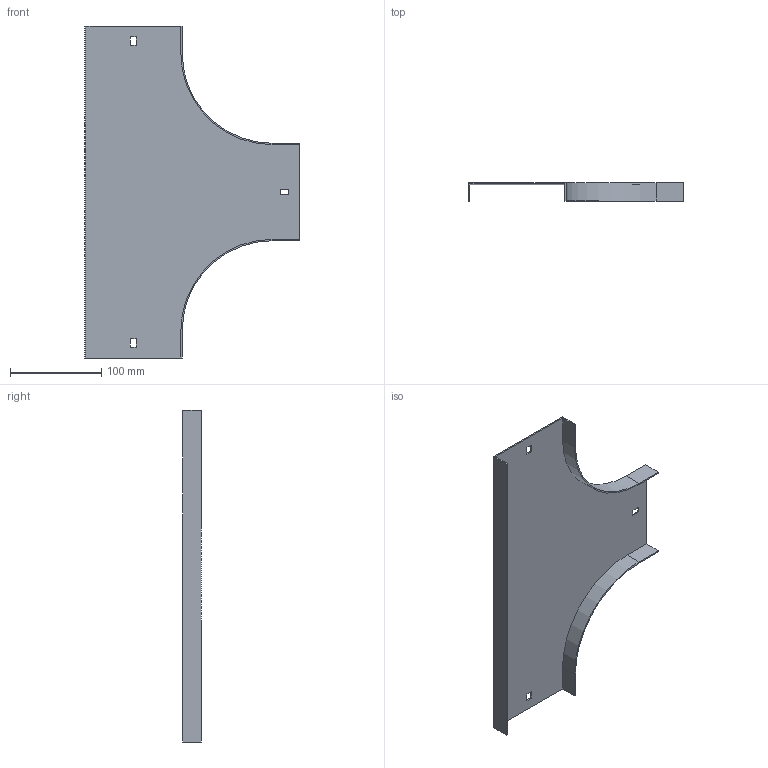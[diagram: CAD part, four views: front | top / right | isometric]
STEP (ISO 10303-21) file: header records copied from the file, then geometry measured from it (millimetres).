
FILE_DESCRIPTION (( 'STEP AP214' ), '1' );
FILE_NAME ('15G1R100.step', '2025-02-21T13:02:35', ( '' ), ( '' ), 'SwSTEP 2.0', 'SolidWorks 2023', '' );
FILE_SCHEMA (( 'AUTOMOTIVE_DESIGN' ));
Length unit declared in the file: millimetre
Products named in the file (1): 15G1R100
Bounding box: 235.5 x 20 x 364 mm (x, y, z)
Volume: 107112.9 mm3; surface area: 144794.9 mm2
Topology: 1 solids, 1 shells, 34 faces, 96 edges, 64 vertices
Faces by surface type: plane 30, cylinder 4
Entity records: 1123 total; most frequent: CARTESIAN_POINT 195, ORIENTED_EDGE 192, DIRECTION 174, EDGE_CURVE 96, VECTOR 88, LINE 88, VERTEX_POINT 64, AXIS2_PLACEMENT_3D 43
